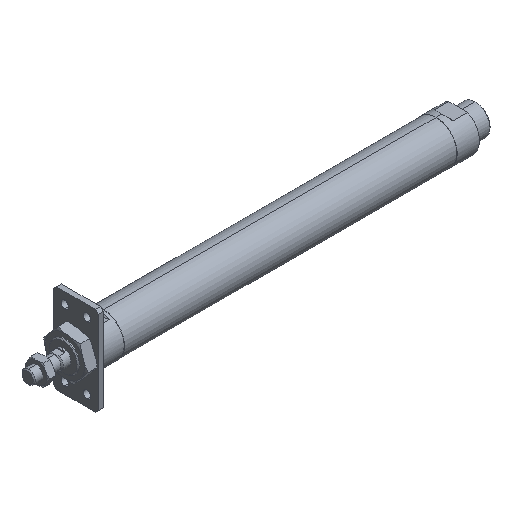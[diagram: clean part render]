
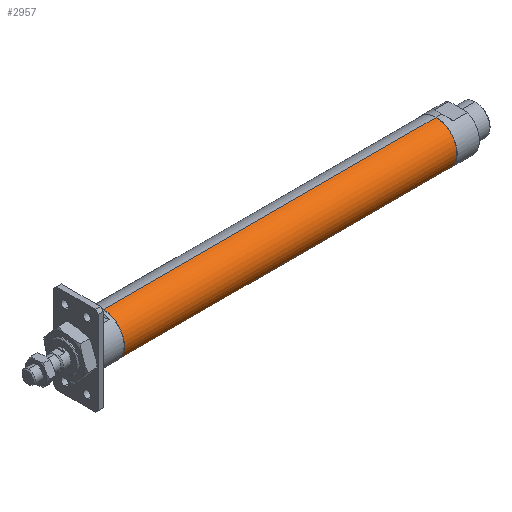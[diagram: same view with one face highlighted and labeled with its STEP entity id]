
A CAD part, isometric view. The second image highlights one B-rep face of the part: STEP entity #2957.
In plain terms, the highlighted cylindrical face has radius 18.8 mm (diameter 37.6 mm), a partial arc.
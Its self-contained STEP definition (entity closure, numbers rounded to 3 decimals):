
#91 = CARTESIAN_POINT ( 'NONE',  ( -1.784, 0., -18.8 ) ) ;
#97 = DIRECTION ( 'NONE',  ( -1., 0., 0. ) ) ;
#262 = CARTESIAN_POINT ( 'NONE',  ( 68., 0., -18.8 ) ) ;
#294 = ORIENTED_EDGE ( 'NONE', *, *, #1899, .F. ) ;
#336 = CARTESIAN_POINT ( 'NONE',  ( 68., 0., 18.8 ) ) ;
#395 = EDGE_CURVE ( 'NONE', #2955, #855, #432, .T. ) ;
#432 = LINE ( 'NONE', #1559, #2314 ) ;
#437 = CYLINDRICAL_SURFACE ( 'NONE', #2052, 18.8 ) ;
#601 = EDGE_LOOP ( 'NONE', ( #2006, #745, #3747, #294 ) ) ;
#649 = CARTESIAN_POINT ( 'NONE',  ( 367., 0., 18.8 ) ) ;
#745 = ORIENTED_EDGE ( 'NONE', *, *, #2157, .T. ) ;
#770 = DIRECTION ( 'NONE',  ( 0., 0., 1. ) ) ;
#855 = VERTEX_POINT ( 'NONE', #336 ) ;
#1006 = CIRCLE ( 'NONE', #1939, 18.8 ) ;
#1166 = LINE ( 'NONE', #91, #1369 ) ;
#1369 = VECTOR ( 'NONE', #1440, 1000. ) ;
#1401 = VERTEX_POINT ( 'NONE', #262 ) ;
#1440 = DIRECTION ( 'NONE',  ( -1., 0., 0. ) ) ;
#1452 = DIRECTION ( 'NONE',  ( -1., 0., 0. ) ) ;
#1559 = CARTESIAN_POINT ( 'NONE',  ( -1.784, 0., 18.8 ) ) ;
#1880 = CIRCLE ( 'NONE', #3385, 18.8 ) ;
#1892 = VERTEX_POINT ( 'NONE', #2541 ) ;
#1899 = EDGE_CURVE ( 'NONE', #1401, #855, #1006, .T. ) ;
#1939 = AXIS2_PLACEMENT_3D ( 'NONE', #2607, #1452, #770 ) ;
#2006 = ORIENTED_EDGE ( 'NONE', *, *, #2022, .F. ) ;
#2022 = EDGE_CURVE ( 'NONE', #1892, #1401, #1166, .T. ) ;
#2052 = AXIS2_PLACEMENT_3D ( 'NONE', #4130, #2302, #3525 ) ;
#2111 = DIRECTION ( 'NONE',  ( -1., 0., 0. ) ) ;
#2157 = EDGE_CURVE ( 'NONE', #1892, #2955, #1880, .T. ) ;
#2302 = DIRECTION ( 'NONE',  ( -1., 0., 0. ) ) ;
#2314 = VECTOR ( 'NONE', #2111, 1000. ) ;
#2541 = CARTESIAN_POINT ( 'NONE',  ( 367., 0., -18.8 ) ) ;
#2607 = CARTESIAN_POINT ( 'NONE',  ( 68., 0., 0. ) ) ;
#2715 = DIRECTION ( 'NONE',  ( 0., 0., 1. ) ) ;
#2955 = VERTEX_POINT ( 'NONE', #649 ) ;
#2957 = ADVANCED_FACE ( 'NONE', ( #3051 ), #437, .T. ) ;
#3051 = FACE_OUTER_BOUND ( 'NONE', #601, .T. ) ;
#3385 = AXIS2_PLACEMENT_3D ( 'NONE', #3474, #97, #2715 ) ;
#3474 = CARTESIAN_POINT ( 'NONE',  ( 367., 0., 0. ) ) ;
#3525 = DIRECTION ( 'NONE',  ( 0., 0., 1. ) ) ;
#3747 = ORIENTED_EDGE ( 'NONE', *, *, #395, .T. ) ;
#4130 = CARTESIAN_POINT ( 'NONE',  ( -1.784, 0., 0. ) ) ;
